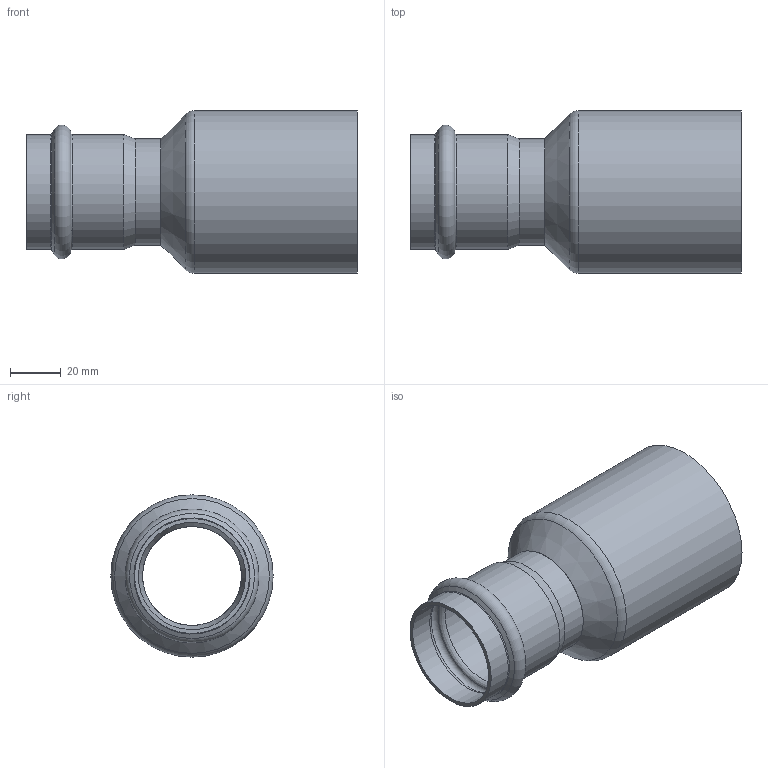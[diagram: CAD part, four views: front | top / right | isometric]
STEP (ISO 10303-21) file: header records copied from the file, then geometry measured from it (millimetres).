
FILE_DESCRIPTION((''),'2;1');
FILE_NAME('G:\Nirosan-Schmiedefeld\Technics\CAD\Bauteile VA\064\692436442(1).stp','2009-05-08T09:50:58',('herberg'),(''),'Autodesk Inventor 2009','Autodesk Inventor 2009','');
FILE_SCHEMA(('AUTOMOTIVE_DESIGN { 1 0 10303 214 1 1 1 1 }'));
Length unit declared in the file: millimetre
Products named in the file (3): 692436442(1); R_692436442(0); HM_6924342(2)
Assembly tree (2 placements, depth 2):
  692436442(1)
    R_692436442(0)
    HM_6924342(2)
Bounding box: 130.5 x 64 x 64 mm (x, y, z)
Volume: 42518.8 mm3; surface area: 47475.4 mm2
Topology: 2 solids, 2 shells, 27 faces, 52 edges, 29 vertices
Faces by surface type: cylinder 9, cone 6, bspline 5, plane 4, torus 3
Full cylindrical faces by diameter (mm): 39 x2, 42 x1, 42.3 x2, 45.3 x2, 60 x1, 64 x1
Entity records: 834 total; most frequent: CARTESIAN_POINT 306, DIRECTION 108, AXIS2_PLACEMENT_3D 54, ORIENTED_EDGE 54, EDGE_LOOP 54, VERTEX_POINT 27, CIRCLE 27, EDGE_CURVE 27
